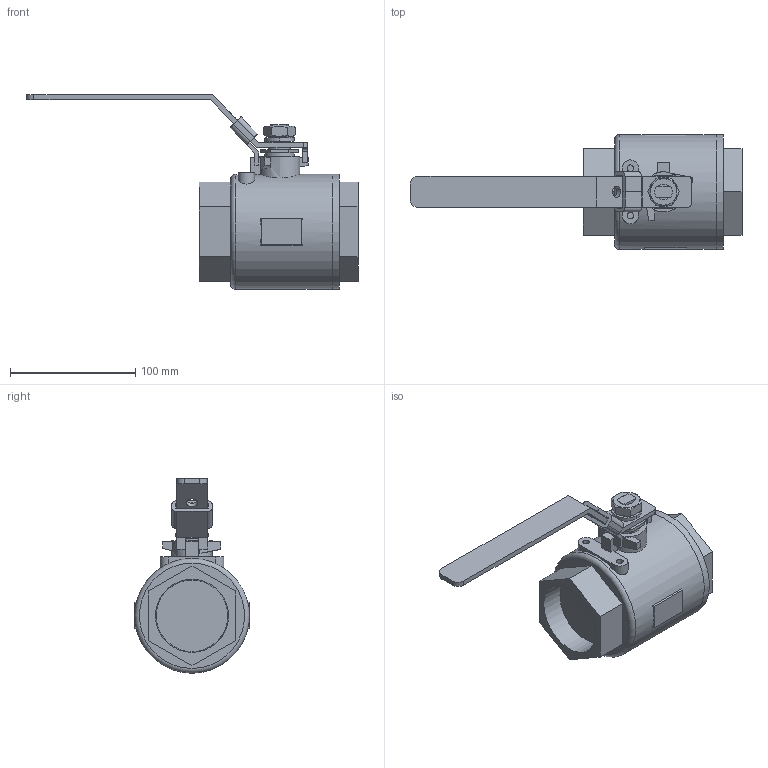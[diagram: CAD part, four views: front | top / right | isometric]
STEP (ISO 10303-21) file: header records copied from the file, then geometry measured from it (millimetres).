
FILE_DESCRIPTION((' '),'2;1');
FILE_NAME('N:\Technical Support\Private\Jomar Valve CAD\Ball Valves\CS and SS\1001N\2.0 T-CS[SS]-1001N (100-978 [100-968])FusionCopy.stp.step','2016-07-05T12:01:23',(' '),(' '),' ','ACIS',' ');
FILE_SCHEMA(('CONFIG_CONTROL_DESIGN'));
Length unit declared in the file: inch
Products named in the file (9): N:\Technical Support\Private\Jomar Valve CAD\Ball Valves\CS and SS\1001N\2.0 T-CS[SS]-1001N (100-978 [100-968])FusionCopy.stp.step; Body1; Body2; Body3; Body4; Body5; Body6; Body7; Body8
Assembly tree (8 placements, depth 2):
  N:\Technical Support\Private\Jomar Valve CAD\Ball Valves\CS and SS\1001N\2.0 T-CS[SS]-1001N (100-978 [100-968])FusionCopy.stp.step
    Body1
    Body2
    Body3
    Body4
    Body5
    Body6
    Body7
    Body8
Bounding box: 265.28 x 91.69 x 155.33 mm (x, y, z)
Volume: 699578 mm3; surface area: 94187.3 mm2
Topology: 8 solids, 8 shells, 169 faces, 408 edges, 266 vertices
Faces by surface type: plane 105, cylinder 27, bspline 25, cone 11, torus 1
Full cylindrical faces by diameter (mm): 5.283 x1, 8.966 x1, 12.344 x1, 16.891 x1, 23.622 x1, 91.694 x2
Entity records: 6145 total; most frequent: CARTESIAN_POINT 1046, DIRECTION 782, ORIENTED_EDGE 776, EDGE_CURVE 388, VECTOR 284, LINE 284, VERTEX_POINT 261, AXIS2_PLACEMENT_3D 249
